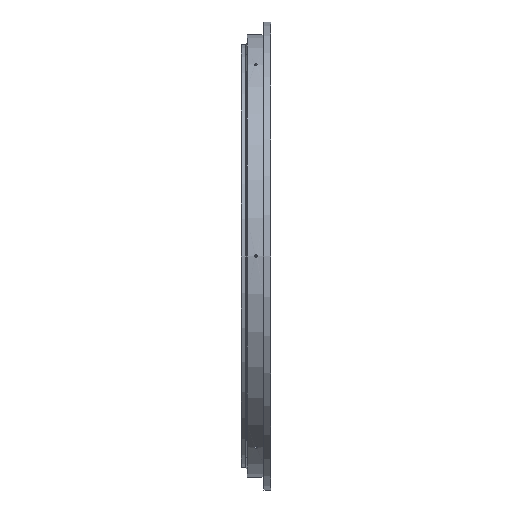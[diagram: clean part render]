
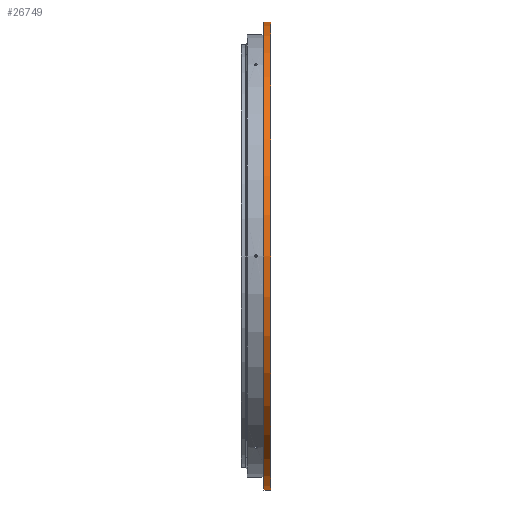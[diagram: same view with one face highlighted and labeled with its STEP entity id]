
A CAD part, left-side view. The second image highlights one B-rep face of the part: STEP entity #26749.
In plain terms, the highlighted cylindrical face has radius 750 mm (diameter 1500 mm), a partial arc.
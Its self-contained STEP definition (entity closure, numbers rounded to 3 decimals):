
#208 = CARTESIAN_POINT ( 'NONE',  ( 0., 0., 750. ) ) ;
#220 = EDGE_CURVE ( 'NONE', #3978, #14298, #6830, .T. ) ;
#513 = CYLINDRICAL_SURFACE ( 'NONE', #8701, 750. ) ;
#2714 = ORIENTED_EDGE ( 'NONE', *, *, #220, .F. ) ;
#2734 = FACE_OUTER_BOUND ( 'NONE', #10551, .T. ) ;
#3978 = VERTEX_POINT ( 'NONE', #6609 ) ;
#5083 = VECTOR ( 'NONE', #9397, 1000. ) ;
#5103 = VECTOR ( 'NONE', #19640, 1000. ) ;
#5158 = EDGE_CURVE ( 'NONE', #3978, #21812, #19425, .T. ) ;
#6078 = ORIENTED_EDGE ( 'NONE', *, *, #25553, .F. ) ;
#6324 = CARTESIAN_POINT ( 'NONE',  ( 0., -28.866, -750. ) ) ;
#6609 = CARTESIAN_POINT ( 'NONE',  ( 0., -6.866, 750. ) ) ;
#6830 = LINE ( 'NONE', #208, #5083 ) ;
#8510 = AXIS2_PLACEMENT_3D ( 'NONE', #22899, #13061, #41440 ) ;
#8701 = AXIS2_PLACEMENT_3D ( 'NONE', #15713, #13516, #23558 ) ;
#9397 = DIRECTION ( 'NONE',  ( 0., -1., 0. ) ) ;
#9477 = ORIENTED_EDGE ( 'NONE', *, *, #17222, .T. ) ;
#10551 = EDGE_LOOP ( 'NONE', ( #2714, #37548, #9477, #6078 ) ) ;
#13061 = DIRECTION ( 'NONE',  ( 0., -1., 0. ) ) ;
#13516 = DIRECTION ( 'NONE',  ( 0., -1., 0. ) ) ;
#14298 = VERTEX_POINT ( 'NONE', #38267 ) ;
#15713 = CARTESIAN_POINT ( 'NONE',  ( 0., 0., 0. ) ) ;
#16201 = CARTESIAN_POINT ( 'NONE',  ( 0., 0., -750. ) ) ;
#17222 = EDGE_CURVE ( 'NONE', #21812, #23986, #39209, .T. ) ;
#19425 = CIRCLE ( 'NONE', #8510, 750. ) ;
#19640 = DIRECTION ( 'NONE',  ( 0., -1., 0. ) ) ;
#21812 = VERTEX_POINT ( 'NONE', #23475 ) ;
#22899 = CARTESIAN_POINT ( 'NONE',  ( 0., -6.866, 0. ) ) ;
#23475 = CARTESIAN_POINT ( 'NONE',  ( 0., -6.866, -750. ) ) ;
#23558 = DIRECTION ( 'NONE',  ( 0., 0., -1. ) ) ;
#23986 = VERTEX_POINT ( 'NONE', #6324 ) ;
#25553 = EDGE_CURVE ( 'NONE', #14298, #23986, #26996, .T. ) ;
#26749 = ADVANCED_FACE ( 'NONE', ( #2734 ), #513, .T. ) ;
#26996 = CIRCLE ( 'NONE', #41285, 750. ) ;
#32912 = DIRECTION ( 'NONE',  ( 0., 0., -1. ) ) ;
#36312 = CARTESIAN_POINT ( 'NONE',  ( 0., -28.866, 0. ) ) ;
#37548 = ORIENTED_EDGE ( 'NONE', *, *, #5158, .T. ) ;
#38267 = CARTESIAN_POINT ( 'NONE',  ( 0., -28.866, 750. ) ) ;
#38873 = DIRECTION ( 'NONE',  ( 0., -1., 0. ) ) ;
#39209 = LINE ( 'NONE', #16201, #5103 ) ;
#41285 = AXIS2_PLACEMENT_3D ( 'NONE', #36312, #38873, #32912 ) ;
#41440 = DIRECTION ( 'NONE',  ( 0., 0., -1. ) ) ;
